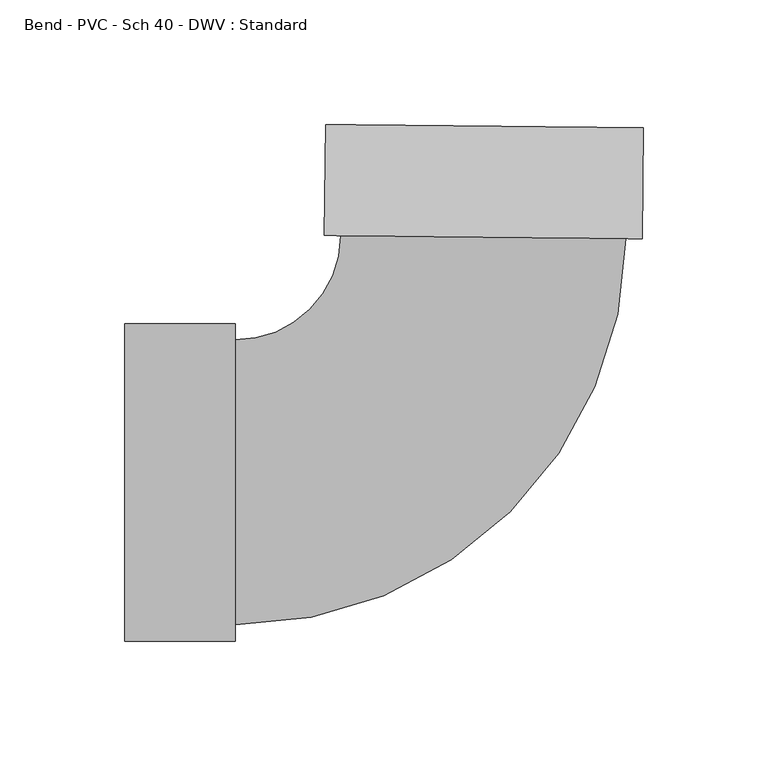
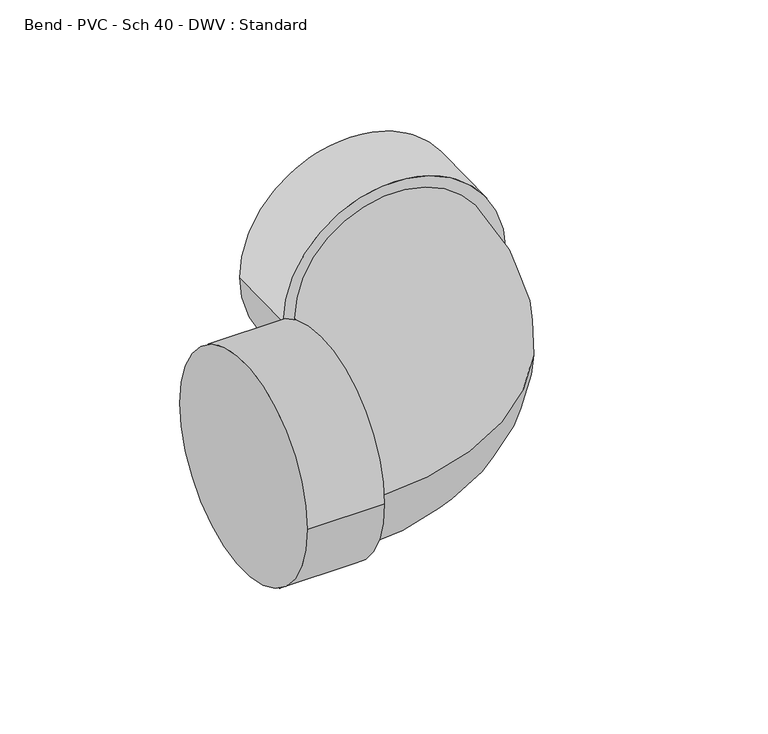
"""IFC4 building model written with IfcOpenShell, lengths in millimetres: pipe fitting geometry, Bend - PVC - Sch 40 - DWV : Standard."""

from ifc_helpers import new_model, si_unit, point, frame, origin, place, context, project, spatial, circle_curve, ellipse_curve, trimmed, source, transform, mapped, element, save
from ifc_brep_helpers import plane_surface, cylinder_surface, revolved_surface, advanced_brep


def bend_pvc_sch_40_dwv_standard_1e75cfd5(model_context):
    return source(origin(), model_context, "Body", "AdvancedBrep", [
        advanced_brep(
        [(-142.875, -63.754, 0.0), (-142.875, 63.754, 0.0), (-98.425, -63.754, 0.0), (-98.425, 63.754, 0.0), (-98.425, -57.15, 0.0), (-98.425, 57.15, 0.0), (-56.1248336, 99.0131616, 0.0), (58.1690034, 97.8262243, 0.0), (64.7726473, 97.7576457, 0.0), (-62.7284775, 99.0817402, 0.0), (65.2342341, 142.205249, 0.0), (-62.2668908, 143.5293435, 0.0)],
        [
            (0, 1, circle_curve(frame((-142.875, 0.0, 0.0), z_axis=(-1.0, 0.0, 0.0), x_axis=(0.0, 1.0, 0.0)), 63.754)),
            (1, 0, circle_curve(frame((-142.875, 0.0, 0.0), z_axis=(-1.0, 0.0, 0.0), x_axis=(0.0, 1.0, 0.0)), 63.754)),
            (2, 3, circle_curve(frame((-98.425, 0.0, 0.0), z_axis=(1.0, 0.0, 0.0), x_axis=(0.0, 1.0, 0.0)), 63.754)),
            (3, 2, circle_curve(frame((-98.425, 0.0, 0.0), z_axis=(1.0, 0.0, 0.0), x_axis=(0.0, 1.0, 0.0)), 63.754)),
            (4, 5, circle_curve(frame((-98.425, 0.0, 0.0), z_axis=(-1.0, 0.0, 0.0), x_axis=(0.0, 1.0, 0.0)), 57.15)),
            (5, 4, circle_curve(frame((-98.425, 0.0, 0.0), z_axis=(-1.0, 0.0, 0.0), x_axis=(0.0, 1.0, 0.0)), 57.15)),
            (0, 2),
            (3, 1),
            (6, 5, circle_curve(frame((-98.425, 99.4524473, 0.0), z_axis=(0.0, 0.0, -1.0), x_axis=(0.0, -1.0, 0.0)), 42.3024473)),
            (4, 7, circle_curve(frame((-98.425, 99.4524473, 0.0), z_axis=(0.0, 0.0, 1.0), x_axis=(0.0, -1.0, 0.0)), 156.6024473)),
            (7, 6, circle_curve(frame((1.0220849, 98.419693, 0.0), z_axis=(-0.010384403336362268, -0.9999460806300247, 0.0), x_axis=(-0.9999460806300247, 0.010384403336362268, 0.0)), 57.15)),
            (6, 7, circle_curve(frame((1.0220849, 98.419693, 0.0), z_axis=(-0.010384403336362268, -0.9999460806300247, 0.0), x_axis=(-0.9999460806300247, 0.010384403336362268, 0.0)), 57.15)),
            (8, 9, circle_curve(frame((1.0220849, 98.419693, 0.0), z_axis=(-0.010384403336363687, -0.9999460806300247, 0.0), x_axis=(-0.9999460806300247, 0.010384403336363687, 0.0)), 63.754)),
            (9, 8, circle_curve(frame((1.0220849, 98.419693, 0.0), z_axis=(-0.010384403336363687, -0.9999460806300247, 0.0), x_axis=(-0.9999460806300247, 0.010384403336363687, 0.0)), 63.754)),
            (10, 11, circle_curve(frame((1.4836716, 142.8672963, 0.0), z_axis=(0.010384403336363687, 0.9999460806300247, 0.0), x_axis=(-0.9999460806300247, 0.010384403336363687, 0.0)), 63.754)),
            (11, 10, circle_curve(frame((1.4836716, 142.8672963, 0.0), z_axis=(0.010384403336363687, 0.9999460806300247, 0.0), x_axis=(-0.9999460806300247, 0.010384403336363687, 0.0)), 63.754)),
            (8, 10),
            (11, 9),
        ],
        [
            plane_surface(frame((-142.875, 0.0, 0.0), z_axis=(-1.0, 0.0, 0.0), x_axis=(0.0, 0.0, 1.0))),
            plane_surface(frame((-98.425, 0.0, 0.0), z_axis=(1.0, 0.0, 0.0), x_axis=(0.0, 0.0, 1.0))),
            cylinder_surface(frame((-142.875, 0.0, 0.0), z_axis=(-1.0, 0.0, 0.0), x_axis=(0.0, 1.0, 0.0)), 63.754),
            revolved_surface(trimmed(ellipse_curve(frame((-98.425, 0.0, 0.0), z_axis=(-1.0, 0.0, 0.0), x_axis=(0.0, 1.0, 0.0)), 57.15, 57.15), [point((-98.425, -57.15, 0.0))], [point((-98.425, 57.15, 0.0))], True, "CARTESIAN"), (-98.425, 99.4524473, 0.0), (0.0, 0.0, 1.0)),
            revolved_surface(trimmed(ellipse_curve(frame((-98.425, 0.0, 0.0), z_axis=(-1.0, 0.0, 0.0), x_axis=(0.0, 1.0, 0.0)), 57.15, 57.15), [point((-98.425, 57.15, 0.0))], [point((-98.425, -57.15, 0.0))], True, "CARTESIAN"), (-98.425, 99.4524473, 0.0), (0.0, 0.0, 1.0)),
            plane_surface(frame((1.0220849, 98.419693, 0.0), z_axis=(-0.010384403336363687, -0.9999460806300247, 0.0), x_axis=(0.0, 0.0, 1.0))),
            plane_surface(frame((1.4836716, 142.8672963, 0.0), z_axis=(0.010384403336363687, 0.9999460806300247, 0.0), x_axis=(0.0, 0.0, 1.0))),
            cylinder_surface(frame((1.0220849, 98.419693, 0.0), z_axis=(-0.010384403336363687, -0.9999460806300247, 0.0), x_axis=(-0.9999460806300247, 0.010384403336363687, 0.0)), 63.754),
        ],
        [
            (0, [[1, 2]]),
            (1, [[3, 4], [5, 6]]),
            (2, [[-1, 7, -4, 8]]),
            (2, [[-2, -8, -3, -7]]),
            (3, [[9, -5, 10, 11]]),
            (4, [[-9, 12, -10, -6]]),
            (5, [[13, 14], [-11, -12]]),
            (6, [[15, 16]]),
            (7, [[-13, 17, -16, 18]]),
            (7, [[-14, -18, -15, -17]]),
        ],
    ),
    ])


if __name__ == "__main__":
    model = new_model("IFC4")
    model_context = context("Model", 3, world=origin())
    ifc_project = project(units=[si_unit("LENGTHUNIT", "METRE", prefix="MILLI")], contexts=[model_context])
    site = spatial("IfcSite", under=ifc_project)
    building = spatial("IfcBuilding", under=site)
    placement = place(None, origin())
    bend_pvc_sch_40_dwv_standard_shape = bend_pvc_sch_40_dwv_standard_1e75cfd5(model_context)
    element("IfcPipeFitting", 1, ObjectType="Bend - PVC - Sch 40 - DWV : Standard", at=placement, inside=building, context=model_context, shape_type="MappedRepresentation", body=[
        mapped(bend_pvc_sch_40_dwv_standard_shape, transform((0.0, 0.0, 0.0), x_axis=(1.0, 0.0, 0.0), y_axis=(0.0, 1.0, 0.0), z_axis=(0.0, 0.0, 1.0))),
    ])
    save(model, "model.ifc")
